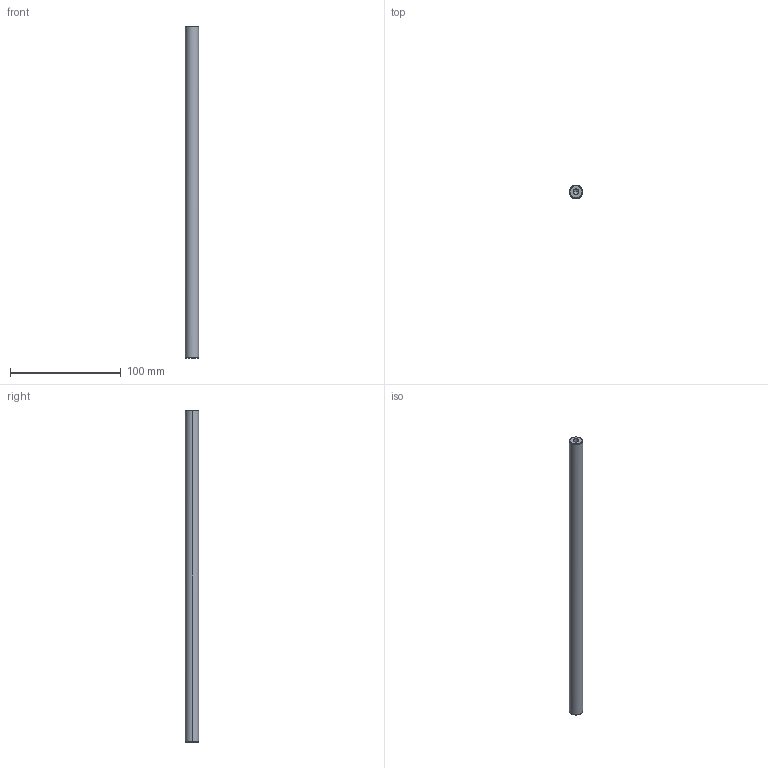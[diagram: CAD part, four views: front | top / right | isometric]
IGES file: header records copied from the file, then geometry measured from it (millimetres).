
Global section: file name: O:\Archiv\ARCHIV\153\3D-Model Kunde (DXF, IGS, SAT)\15301148_MST 45-30.igs; native system: AutoCAD-17.2s (LMS Tech) (Microsoft Windows NT Version 6.1 (x64)); preprocessor: Autodesk IGES Translator Mechanical Desktop 2009 (Feb 21 2008) from Autodesk, Inc.; date: 20140722.111949; units: millimetre
Bounding box: 12 x 12 x 300 mm (x, y, z)
Surface area: 11840.3 mm2 (no closed solid volume)
Topology: 0 solids, 0 shells, 12 faces, 227 edges, 225 vertices
Faces by surface type: bspline 12
